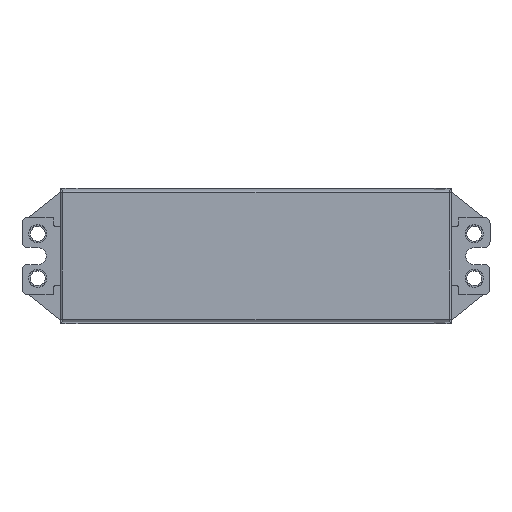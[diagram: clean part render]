
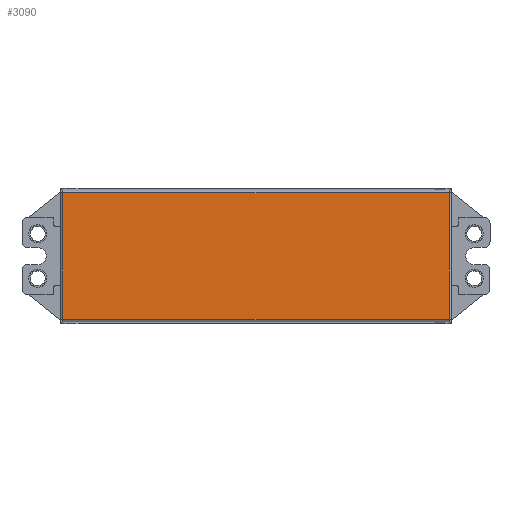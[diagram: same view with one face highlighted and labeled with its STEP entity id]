
A CAD part, top view. The second image highlights one B-rep face of the part: STEP entity #3090.
In plain terms, the highlighted planar face has unit normal (0, 0, 1).
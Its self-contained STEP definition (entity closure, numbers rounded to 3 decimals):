
#138 = LINE ( 'NONE', #171, #170 ) ;
#168 = CARTESIAN_POINT ( 'NONE',  ( 67.7, -22.2, 0. ) ) ;
#169 = DIRECTION ( 'NONE',  ( 0., 1., 0. ) ) ;
#170 = VECTOR ( 'NONE', #169, 1000. ) ;
#171 = CARTESIAN_POINT ( 'NONE',  ( 67.7, -23., 0. ) ) ;
#278 = CARTESIAN_POINT ( 'NONE',  ( 67.7, 22.2, 0. ) ) ;
#2976 = ORIENTED_EDGE ( 'NONE', *, *, #9036, .T. ) ;
#3054 = EDGE_LOOP ( 'NONE', ( #2976, #8917, #9011, #9014 ) ) ;
#3090 = ADVANCED_FACE ( 'NONE', ( #6049 ), #6079, .T. ) ;
#3780 = DIRECTION ( 'NONE',  ( 1., 0., 0. ) ) ;
#3781 = VECTOR ( 'NONE', #3780, 1000. ) ;
#3783 = CARTESIAN_POINT ( 'NONE',  ( -67.7, -22.2, 0. ) ) ;
#3785 = LINE ( 'NONE', #3783, #3781 ) ;
#3967 = CARTESIAN_POINT ( 'NONE',  ( -67.7, -22.2, 0. ) ) ;
#3973 = CARTESIAN_POINT ( 'NONE',  ( -67.7, 22.2, 0. ) ) ;
#4082 = DIRECTION ( 'NONE',  ( -1., 0., 0. ) ) ;
#4083 = VECTOR ( 'NONE', #4082, 1000. ) ;
#4091 = CARTESIAN_POINT ( 'NONE',  ( 67.7, 22.2, 0. ) ) ;
#4092 = LINE ( 'NONE', #4091, #4083 ) ;
#4128 = DIRECTION ( 'NONE',  ( 0., -1., 0. ) ) ;
#4129 = VECTOR ( 'NONE', #4128, 1000. ) ;
#4130 = CARTESIAN_POINT ( 'NONE',  ( -67.7, 23., 0. ) ) ;
#4131 = LINE ( 'NONE', #4130, #4129 ) ;
#6039 = CARTESIAN_POINT ( 'NONE',  ( -68.5, -23., 0. ) ) ;
#6043 = DIRECTION ( 'NONE',  ( 0., 0., 1. ) ) ;
#6049 = FACE_OUTER_BOUND ( 'NONE', #3054, .T. ) ;
#6050 = AXIS2_PLACEMENT_3D ( 'NONE', #6039, #6043, #6084 ) ;
#6079 = PLANE ( 'NONE',  #6050 ) ;
#6084 = DIRECTION ( 'NONE',  ( 1., 0., 0. ) ) ;
#7476 = EDGE_CURVE ( 'NONE', #7479, #7535, #138, .T. ) ;
#7479 = VERTEX_POINT ( 'NONE', #168 ) ;
#7535 = VERTEX_POINT ( 'NONE', #278 ) ;
#8917 = ORIENTED_EDGE ( 'NONE', *, *, #8918, .T. ) ;
#8918 = EDGE_CURVE ( 'NONE', #8994, #7479, #3785, .T. ) ;
#8993 = VERTEX_POINT ( 'NONE', #3973 ) ;
#8994 = VERTEX_POINT ( 'NONE', #3967 ) ;
#9011 = ORIENTED_EDGE ( 'NONE', *, *, #7476, .T. ) ;
#9013 = EDGE_CURVE ( 'NONE', #7535, #8993, #4092, .T. ) ;
#9014 = ORIENTED_EDGE ( 'NONE', *, *, #9013, .T. ) ;
#9036 = EDGE_CURVE ( 'NONE', #8993, #8994, #4131, .T. ) ;
